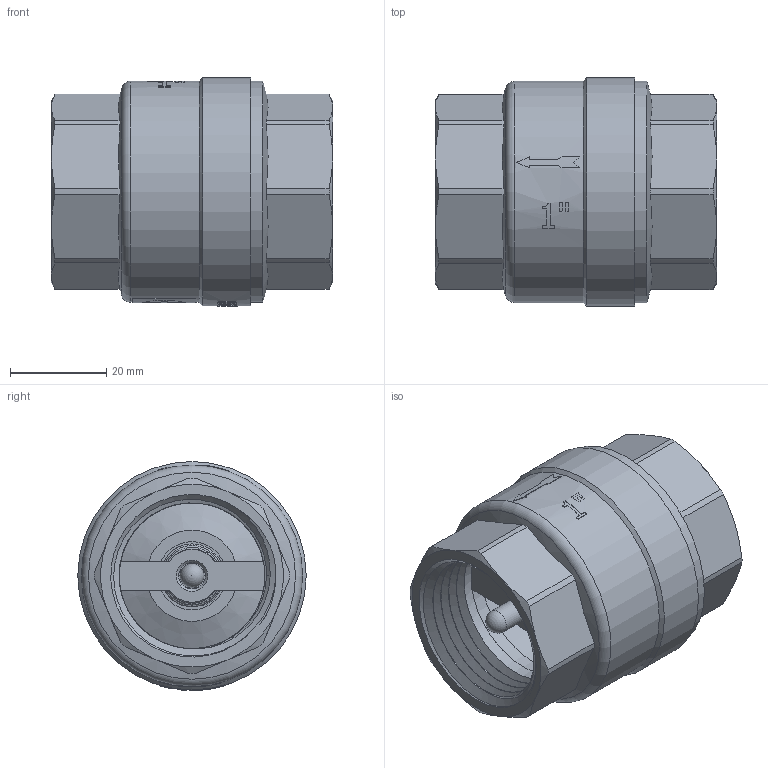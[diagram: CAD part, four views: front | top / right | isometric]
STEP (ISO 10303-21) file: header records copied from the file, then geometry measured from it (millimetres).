
FILE_DESCRIPTION(/* description */ (''),/* implementation_level */ '2;1');
FILE_NAME(/* name */ 'F:\Артём\00000\Работа удаленка\═╝╓╜\VT.161\VT.161.N.06.stp',/* time_stamp */ '2021-04-01T14:43:44+03:00',/* author */ ('almis'),/* organization */ (''),/* preprocessor_version */ 'ST-DEVELOPER v18',/* originating_system */ 'Autodesk Inventor 2020',/* authorisation */ '');
FILE_SCHEMA (('AUTOMOTIVE_DESIGN { 1 0 10303 214 3 1 1 }'));
Length unit declared in the file: millimetre
Products named in the file (1): VT.161.N.06
Bounding box: 58.5 x 47.5 x 47.6 mm (x, y, z)
Volume: 36501.4 mm3; surface area: 25951.1 mm2
Topology: 2 solids, 2 shells, 252 faces, 679 edges, 454 vertices
Faces by surface type: plane 112, cylinder 75, cone 31, bspline 30, torus 3, sphere 1
Full cylindrical faces by diameter (mm): 5 x3, 5.5 x2, 6.4 x1, 14.2 x1, 17 x1, 28.5 x1, 30.3 x8, 30.5 x1, 33.5 x1, 34 x1, 34.9 x8, 38.5 x1, 41.5 x1, 46 x2, 47.5 x1
Entity records: 12598 total; most frequent: CARTESIAN_POINT 6386, ORIENTED_EDGE 1356, DIRECTION 1224, EDGE_CURVE 678, AXIS2_PLACEMENT_3D 478, VERTEX_POINT 454, EDGE_LOOP 286, LINE 268
